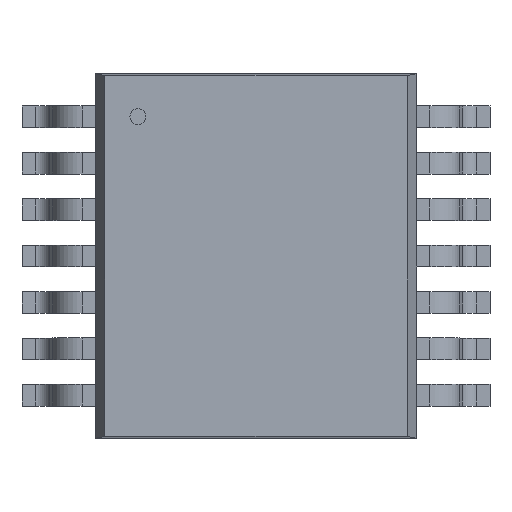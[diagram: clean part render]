
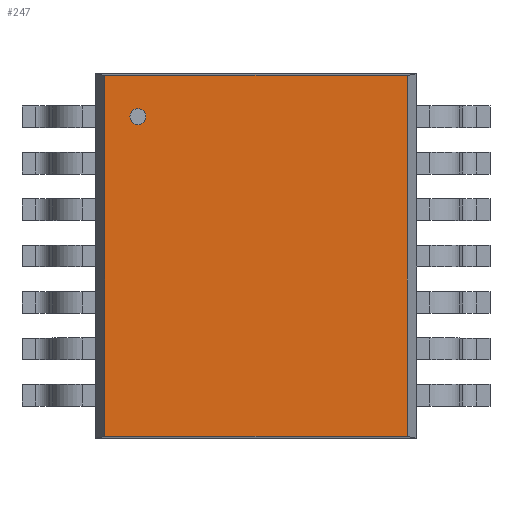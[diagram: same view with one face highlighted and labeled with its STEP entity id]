
A CAD part, top view. The second image highlights one B-rep face of the part: STEP entity #247.
In plain terms, the highlighted planar face has unit normal (0, 0, 1).
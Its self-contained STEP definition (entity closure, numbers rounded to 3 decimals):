
#247=ADVANCED_FACE('',(#253),#248,.T.);
#248=PLANE('',#249);
#249=AXIS2_PLACEMENT_3D('',#250,#251,#252);
#250=CARTESIAN_POINT('',(-2.121,-2.527,1.194));
#251=DIRECTION('',(0.0,0.0,1.0));
#252=DIRECTION('',(0.,1.,0.));
#253=FACE_OUTER_BOUND('',#254,.T.);
#254=EDGE_LOOP('',(#255,#265,#275,#285));
#258=CARTESIAN_POINT('',(2.121,-2.527,1.194));
#257=VERTEX_POINT('',#258);
#260=CARTESIAN_POINT('',(-2.121,-2.527,1.194));
#259=VERTEX_POINT('',#260);
#256=EDGE_CURVE('',#257,#259,#261,.T.);
#261=LINE('',#258,#263);
#263=VECTOR('',#264,4.242);
#264=DIRECTION('',(-1.0,0.0,0.0));
#255=ORIENTED_EDGE('',*,*,#256,.F.);
#268=CARTESIAN_POINT('',(2.121,2.527,1.194));
#267=VERTEX_POINT('',#268);
#266=EDGE_CURVE('',#267,#257,#271,.T.);
#271=LINE('',#268,#273);
#273=VECTOR('',#274,5.055);
#274=DIRECTION('',(0.0,-1.0,0.0));
#265=ORIENTED_EDGE('',*,*,#266,.F.);
#278=CARTESIAN_POINT('',(-2.121,2.527,1.194));
#277=VERTEX_POINT('',#278);
#276=EDGE_CURVE('',#277,#267,#281,.T.);
#281=LINE('',#278,#283);
#283=VECTOR('',#284,4.242);
#284=DIRECTION('',(1.0,0.0,0.0));
#275=ORIENTED_EDGE('',*,*,#276,.F.);
#286=EDGE_CURVE('',#259,#277,#291,.T.);
#291=LINE('',#260,#293);
#293=VECTOR('',#294,5.055);
#294=DIRECTION('',(0.0,1.0,0.0));
#285=ORIENTED_EDGE('',*,*,#286,.F.);
